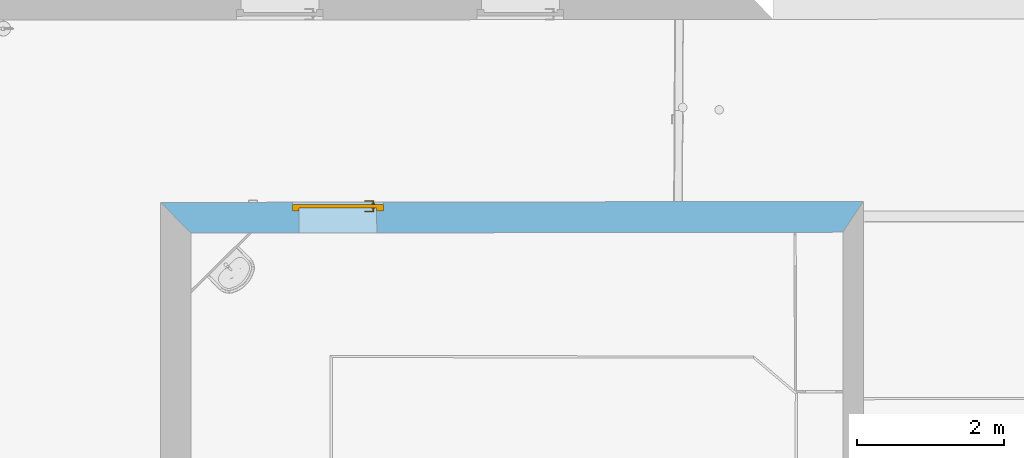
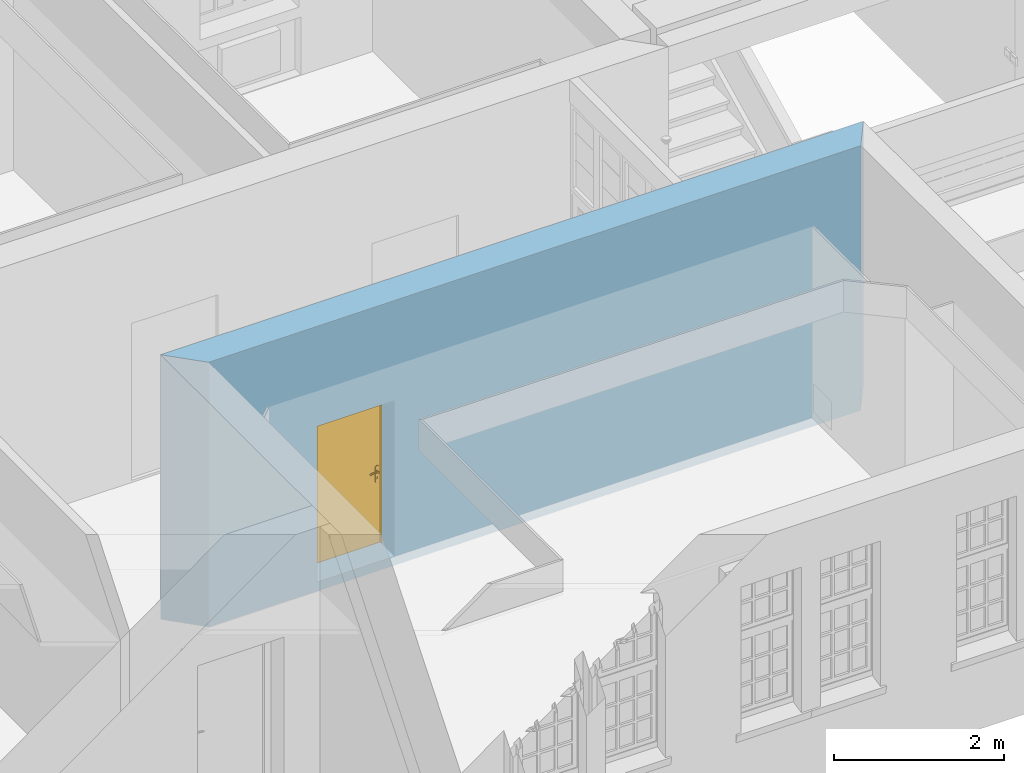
# One storey, part 70 of 158: 1 door, 1 opening, plus 1 element that does not belong to this part.
"""IFC2X3 building model written with IfcOpenShell, lengths in metres."""

from ifc_helpers import new_model, entity, si_unit, converted_unit, derived_unit, money_unit, direction, frame, origin_with_axes, origin_2d_with_axis, place, context, subcontext, project, spatial, polyline, rectangle, outline, extrude, faceted_brep, material, layer, layer_set, layer_usage, type_object, element, fill, save


model = new_model("IFC2X3")

# Units and contexts
model_context = context("Model", 3, precision=1e-05, world=origin_with_axes(), true_north=direction((0.0, 1.0)))
body_context = subcontext(model_context, "Body", "Model", "MODEL_VIEW")
ifc_project = project(units=[si_unit("LENGTHUNIT", "METRE"), si_unit("AREAUNIT", "SQUARE_METRE"), si_unit("VOLUMEUNIT", "CUBIC_METRE"), converted_unit("PLANEANGLEUNIT", "DEGREE", entity("IfcPlaneAngleMeasure", 0.0174532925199), si_unit("PLANEANGLEUNIT", "RADIAN"), dimensions=[0, 0, 0, 0, 0, 0, 0]), money_unit("EUR"), converted_unit("TIMEUNIT", "Year", entity("IfcTimeMeasure", 31556926.0), si_unit("TIMEUNIT", "SECOND"), dimensions=[0, 0, 1, 0, 0, 0, 0]), si_unit("MASSUNIT", "GRAM", prefix="KILO"), si_unit("THERMODYNAMICTEMPERATUREUNIT", "DEGREE_CELSIUS"), si_unit("LUMINOUSINTENSITYUNIT", "LUMEN"), si_unit("ENERGYUNIT", "JOULE", prefix="MEGA"), derived_unit("THERMALCONDUCTANCEUNIT", [(si_unit("POWERUNIT", "WATT"), 1), (si_unit("LENGTHUNIT", "METRE"), -1), (si_unit("THERMODYNAMICTEMPERATUREUNIT", "KELVIN"), -1)]), derived_unit("SPECIFICHEATCAPACITYUNIT", [(si_unit("ENERGYUNIT", "JOULE"), 1), (si_unit("MASSUNIT", "GRAM", prefix="KILO"), -1), (si_unit("THERMODYNAMICTEMPERATUREUNIT", "KELVIN"), -1)]), derived_unit("MASSDENSITYUNIT", [(si_unit("MASSUNIT", "GRAM", prefix="KILO"), 1), (si_unit("VOLUMEUNIT", "CUBIC_METRE"), -1)])], contexts=[model_context])

# Site, building, storey
site_placement = place(None, origin_with_axes())
site = spatial("IfcSite", under=ifc_project, at=site_placement, Name="Gelände", CompositionType="ELEMENT")
building_placement = place(site_placement, origin_with_axes())
building = spatial("IfcBuilding", under=site, at=building_placement, Name="Gebäude", CompositionType="ELEMENT")
storey_placement = place(building_placement, origin_with_axes())
storey = spatial("IfcBuildingStorey", under=building, at=storey_placement, Name="ERDGESCHOSS", CompositionType="ELEMENT", Elevation=0.0)

# Wall, opening, door
ifc_material = material(Name="05_ALLGEMEIN - TRAGENDE BAUTEILE")
ifc_layer = layer(ifc_material, 0.42, ventilated="UNKNOWN")
ifc_layer_set = layer_set([ifc_layer], Name="05_ALLGEMEIN - TRAGENDE BAUTEILE 0.42")
ifc_layer_usage = layer_usage(ifc_layer_set, "AXIS2", "NEGATIVE", 0.42)
wall_type = type_object("IfcWallType", Name="05_ALLGEMEIN - TRAGENDE BAUTEILE 420", PredefinedType="ELEMENTEDWALL")
wall_placement = place(storey_placement, frame((-8.89596887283, 16.7844638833, -0.21), z_axis=(0.0, 0.0, 1.0), x_axis=(-0.999998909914, -0.00147654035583, 0.0)))
wall = element("IfcWallStandardCase", 1, at=wall_placement, inside=storey, type_object=wall_type, material=ifc_layer_usage, Name="Wand-036", ObjectType="ELEMENTEDWALL", context=body_context, shape_type="SweptSolid", body=[
    extrude(outline(polyline([(-0.280000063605, 0.0), (9.29327818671, 0.0), (8.87957934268, 0.42), (0.000283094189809, 0.42), (-0.280000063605, 0.0)])), origin_with_axes(), (0.0, 0.0, 1.0), 3.81),
])
opening_placement = place(wall_placement, frame((6.87879197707, 0.0, 0.129867), z_axis=(0.0, 0.0, 1.0), x_axis=(1.0, 0.0, 0.0)))
opening = element("IfcOpeningElement", 2, at=opening_placement, cuts=wall, Name="Tür-022", context=body_context, shape_type="SweptSolid", body=[
    extrude(rectangle(XDim=1.05907517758, YDim=2.24387033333, at=origin_2d_with_axis()), frame((0.0, 0.12, 1.12193516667), z_axis=(0.0, 1.0, 0.0), x_axis=(1.0, 0.0, 0.0)), (0.0, 0.0, 1.0), 0.72),
    extrude(rectangle(XDim=1.23907517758, YDim=2.33387033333, at=origin_2d_with_axis()), frame((0.0, 0.03, 1.16693516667), z_axis=(0.0, -1.0, 0.0), x_axis=(1.0, 0.0, 0.0)), (0.0, 0.0, -1.0), 0.09),
    extrude(rectangle(XDim=1.23907517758, YDim=2.33387033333, at=origin_2d_with_axis()), frame((0.0, 0.03, 1.16693516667), z_axis=(0.0, -1.0, 0.0), x_axis=(1.0, 0.0, 0.0)), (0.0, 0.0, 1.0), 0.45),
])
door_style = type_object("IfcDoorStyle", Name="Blockrahmentür 1-Fl 25", ConstructionType="NOTDEFINED", OperationType="SINGLE_SWING_LEFT", ParameterTakesPrecedence=False, Sizeable=False)
door_placement = place(opening_placement, frame((0.529537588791, 0.0, 0.0), z_axis=(0.0, 0.0, 1.0), x_axis=(-1.0, 0.0, 0.0)))
door = element("IfcDoor", 3, at=door_placement, inside=storey, type_object=door_style, Name="Tür-022", ObjectType="NOTDEFINED", OverallHeight=2.33387, OverallWidth=1.23908, context=body_context, shape_type="Brep", body=[
    faceted_brep([(-0.09, -0.12, 0.0), (-0.09, -0.12, 2.33387033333), (-0.09, -0.08, 2.33387033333), (-0.09, -0.08, 0.0), (0.0, -0.12, 0.0), (0.0, -0.12, 2.24387033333), (0.417437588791, -0.12, 2.24387033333), (0.529437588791, -0.12, 2.24387033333), (1.05907517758, -0.12, 2.24387033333), (1.05907517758, -0.12, 0.0), (1.14907517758, -0.12, 0.0), (1.14907517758, -0.12, 2.33387033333), (1.14907517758, -0.08, 2.33387033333), (1.14907517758, -0.08, 0.0), (1.05907517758, -0.08, 0.0), (1.05907517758, -0.08, 2.24387033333), (0.529437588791, -0.08, 2.24387033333), (0.417437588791, -0.08, 2.24387033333), (0.0, -0.08, 2.24387033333), (0.0, -0.08, 0.0)], [[[0, 1, 2, 3]], [[0, 4, 5, 6, 7, 8, 9, 10, 11, 1]], [[1, 11, 12, 2]], [[3, 2, 12, 13, 14, 15, 16, 17, 18, 19]], [[4, 0, 3, 19]], [[5, 4, 19, 18]], [[6, 5, 18, 17]], [[7, 6, 17, 16]], [[8, 7, 16, 15]], [[9, 8, 15, 14]], [[10, 9, 14, 13]], [[11, 10, 13, 12]]]),
    faceted_brep([(-0.09, -0.08, 0.0), (-0.09, -0.08, 2.33387033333), (-0.09, -0.03, 2.33387033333), (-0.09, -0.03, 0.0), (-0.012, -0.08, 0.0), (-0.012, -0.08, 2.25587033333), (0.429437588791, -0.08, 2.25587033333), (0.517437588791, -0.08, 2.25587033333), (1.07107517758, -0.08, 2.25587033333), (1.07107517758, -0.08, 0.0), (1.14907517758, -0.08, 0.0), (1.14907517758, -0.08, 2.33387033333), (1.14907517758, -0.03, 2.33387033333), (1.14907517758, -0.03, 0.0), (1.07107517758, -0.03, 0.0), (1.07107517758, -0.03, 2.25587033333), (0.517437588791, -0.03, 2.25587033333), (0.429437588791, -0.03, 2.25587033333), (-0.012, -0.03, 2.25587033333), (-0.012, -0.03, 0.0)], [[[0, 1, 2, 3]], [[0, 4, 5, 6, 7, 8, 9, 10, 11, 1]], [[1, 11, 12, 2]], [[3, 2, 12, 13, 14, 15, 16, 17, 18, 19]], [[4, 0, 3, 19]], [[5, 4, 19, 18]], [[6, 5, 18, 17]], [[7, 6, 17, 16]], [[8, 7, 16, 15]], [[9, 8, 15, 14]], [[10, 9, 14, 13]], [[11, 10, 13, 12]]]),
    faceted_brep([(-0.012, -0.032, 0.0), (-0.012, -0.032, 2.25587033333), (1.07107517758, -0.032, 2.25587033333), (1.07107517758, -0.032, 0.0), (-0.012, -0.08, 0.0), (-0.012, -0.08, 2.25587033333), (1.07107517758, -0.08, 2.25587033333), (1.07107517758, -0.08, 0.0)], [[[0, 1, 2, 3]], [[0, 4, 5, 1]], [[1, 5, 6, 2]], [[2, 6, 7, 3]], [[3, 7, 4, 0]], [[7, 6, 5, 4]]]),
    faceted_brep([(1.0157774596, -0.12, 1.05647213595), (1.0157774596, -0.1, 1.05647213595), (1.01107517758, -0.1, 1.058), (1.01107517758, -0.12, 1.058), (1.01868362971, -0.12, 1.05247213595), (1.01868362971, -0.1, 1.05247213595), (1.0169530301, -0.098, 1.05809016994), (1.01107517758, -0.098, 1.06), (1.00637289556, -0.1, 1.05647213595), (1.00637289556, -0.12, 1.05647213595), (1.00346672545, -0.12, 1.05247213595), (1.00346672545, -0.12, 1.04752786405), (1.00637289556, -0.12, 1.04352786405), (1.01107517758, -0.12, 1.042), (1.0157774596, -0.12, 1.04352786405), (1.01868362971, -0.12, 1.04752786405), (1.01868362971, -0.1, 1.04752786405), (1.02058574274, -0.098, 1.05309016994), (1.0169530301, -0.09, 1.05809016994), (1.01107517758, -0.09, 1.06), (1.00519732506, -0.098, 1.05809016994), (1.00346672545, -0.1, 1.05247213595), (1.00346672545, -0.1, 1.04752786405), (1.00637289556, -0.1, 1.04352786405), (1.01107517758, -0.1, 1.042), (1.0157774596, -0.1, 1.04352786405), (1.02058574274, -0.098, 1.04690983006), (1.02058574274, -0.09, 1.05309016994), (1.02058574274, -0.09, 1.04690983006), (1.0169530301, -0.09, 1.04190983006), (1.01107517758, -0.09, 1.04), (1.00519732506, -0.09, 1.04190983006), (1.00156461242, -0.09, 1.04690983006), (1.00156461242, -0.09, 1.05309016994), (1.00519732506, -0.09, 1.05809016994), (1.00156461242, -0.098, 1.05309016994), (1.00156461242, -0.098, 1.04690983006), (1.00519732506, -0.098, 1.04190983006), (1.01107517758, -0.098, 1.04), (1.0169530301, -0.098, 1.04190983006)], [[[0, 1, 2, 3]], [[4, 5, 1, 0]], [[1, 6, 7, 2]], [[3, 2, 8, 9]], [[3, 9, 10, 11, 12, 13, 14, 15, 4, 0]], [[15, 16, 5, 4]], [[5, 17, 6, 1]], [[6, 18, 19, 7]], [[2, 7, 20, 8]], [[9, 8, 21, 10]], [[10, 21, 22, 11]], [[11, 22, 23, 12]], [[12, 23, 24, 13]], [[13, 24, 25, 14]], [[14, 25, 16, 15]], [[16, 26, 17, 5]], [[17, 27, 18, 6]], [[19, 18, 27, 28, 29, 30, 31, 32, 33, 34]], [[7, 19, 34, 20]], [[8, 20, 35, 21]], [[21, 35, 36, 22]], [[22, 36, 37, 23]], [[23, 37, 38, 24]], [[24, 38, 39, 25]], [[25, 39, 26, 16]], [[26, 28, 27, 17]], [[39, 29, 28, 26]], [[38, 30, 29, 39]], [[37, 31, 30, 38]], [[36, 32, 31, 37]], [[35, 33, 32, 36]], [[20, 34, 33, 35]]]),
    faceted_brep([(0.998886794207, -0.09, 1.11759695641), (0.994275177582, -0.09, 1.11), (0.988575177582, -0.09, 1.11), (0.988575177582, -0.09, 0.89), (0.994275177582, -0.09, 0.89), (0.998886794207, -0.09, 0.882403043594), (1.00663162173, -0.09, 0.878044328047), (1.01551873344, -0.09, 0.878044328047), (1.02326356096, -0.09, 0.882403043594), (1.02787517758, -0.09, 0.89), (1.03357517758, -0.09, 0.89), (1.03357517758, -0.09, 1.11), (1.02787517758, -0.09, 1.11), (1.02326356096, -0.09, 1.11759695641), (1.01551873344, -0.09, 1.12195567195), (1.00663162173, -0.09, 1.12195567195), (1.01107517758, -0.09, 0.967425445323), (1.0164503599, -0.09, 0.965143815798), (1.01854300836, -0.09, 0.959692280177), (1.01607517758, -0.09, 0.9544), (1.01607517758, -0.09, 0.9375), (1.01461071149, -0.09, 0.933964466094), (1.01107517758, -0.09, 0.9325), (1.00753964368, -0.09, 0.933964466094), (1.00607517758, -0.09, 0.9375), (1.00607517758, -0.09, 0.9544), (1.00360734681, -0.09, 0.959692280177), (1.00569999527, -0.09, 0.965143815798), (0.998886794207, -0.08, 1.11759695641), (0.994275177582, -0.08, 1.11), (0.988575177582, -0.08, 1.11), (0.988575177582, -0.08, 0.89), (0.994275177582, -0.08, 0.89), (0.998886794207, -0.08, 0.882403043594), (1.00663162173, -0.08, 0.878044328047), (1.01551873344, -0.08, 0.878044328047), (1.02326356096, -0.08, 0.882403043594), (1.02787517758, -0.08, 0.89), (1.03357517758, -0.08, 0.89), (1.03357517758, -0.08, 1.11), (1.02787517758, -0.08, 1.11), (1.02326356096, -0.08, 1.11759695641), (1.01551873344, -0.08, 1.12195567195), (1.00663162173, -0.08, 1.12195567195), (1.01107517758, -0.08, 0.967425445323), (1.0164503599, -0.08, 0.965143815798), (1.01854300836, -0.08, 0.959692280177), (1.01607517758, -0.08, 0.9544), (1.01607517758, -0.08, 0.9375), (1.01461071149, -0.08, 0.933964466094), (1.01107517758, -0.08, 0.9325), (1.00753964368, -0.08, 0.933964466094), (1.00607517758, -0.08, 0.9375), (1.00607517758, -0.08, 0.9544), (1.00360734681, -0.08, 0.959692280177), (1.00569999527, -0.08, 0.965143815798)], [[[0, 1, 2, 3, 4, 5, 6, 7, 8, 9, 10, 11, 12, 13, 14, 15], [16, 17, 18, 19, 20, 21, 22, 23, 24, 25, 26, 27]], [[0, 28, 29, 1]], [[1, 29, 30, 2]], [[2, 30, 31, 3]], [[3, 31, 32, 4]], [[4, 32, 33, 5]], [[5, 33, 34, 6]], [[6, 34, 35, 7]], [[7, 35, 36, 8]], [[8, 36, 37, 9]], [[9, 37, 38, 10]], [[10, 38, 39, 11]], [[11, 39, 40, 12]], [[12, 40, 41, 13]], [[13, 41, 42, 14]], [[14, 42, 43, 15]], [[15, 43, 28, 0]], [[16, 44, 45, 17]], [[17, 45, 46, 18]], [[18, 46, 47, 19]], [[47, 48, 20, 19]], [[21, 20, 48, 49]], [[22, 21, 49, 50]], [[23, 22, 50, 51]], [[24, 23, 51, 52]], [[25, 24, 52, 53]], [[25, 53, 54, 26]], [[26, 54, 55, 27]], [[27, 55, 44, 16]], [[32, 31, 30, 29, 28, 43, 42, 41, 40, 39, 38, 37, 36, 35, 34, 33], [46, 45, 44, 55, 54, 53, 52, 51, 50, 49, 48, 47]]]),
    faceted_brep([(0.896822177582, -0.12, 1.057158), (0.896820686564, -0.12, 1.05719388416), (0.896820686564, -0.135, 1.05719388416), (0.896822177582, -0.135, 1.057158), (0.923849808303, -0.12, 1.06432652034), (0.951677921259, -0.12, 1.06706086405), (0.979583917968, -0.12, 1.06529002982), (1.00684317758, -0.12, 1.05906), (1.0132457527, -0.12, 1.05976125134), (1.01874781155, -0.12, 1.05641280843), (1.02106669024, -0.12, 1.05040385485), (1.01924034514, -0.12, 1.04422735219), (1.01402648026, -0.12, 1.04044577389), (1.00758819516, -0.12, 1.04062800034), (1.00259657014, -0.12, 1.04469843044), (1.00261717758, -0.12, 1.044666), (0.977328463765, -0.12, 1.05019878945), (0.951485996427, -0.12, 1.05171460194), (0.925723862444, -0.12, 1.04917624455), (0.900674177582, -0.12, 1.042646), (0.895130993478, -0.12, 1.04356849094), (0.891769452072, -0.12, 1.04807159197), (0.892461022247, -0.12, 1.05364829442), (0.892461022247, -0.135, 1.05364829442), (0.891769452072, -0.135, 1.04807159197), (0.895130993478, -0.135, 1.04356849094), (0.900674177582, -0.135, 1.042646), (0.925723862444, -0.135, 1.04917624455), (0.951485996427, -0.135, 1.05171460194), (0.977328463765, -0.135, 1.05019878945), (1.00261717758, -0.135, 1.044666), (1.00259657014, -0.135, 1.04469843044), (1.00758819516, -0.135, 1.04062800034), (1.01402648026, -0.135, 1.04044577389), (1.01924034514, -0.135, 1.04422735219), (1.02106669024, -0.135, 1.05040385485), (1.01874781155, -0.135, 1.05641280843), (1.0132457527, -0.135, 1.05976125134), (1.00684317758, -0.135, 1.05906), (0.979583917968, -0.135, 1.06529002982), (0.951677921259, -0.135, 1.06706086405), (0.923849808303, -0.135, 1.06432652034)], [[[0, 1, 2, 3]], [[0, 4, 5, 6, 7, 8, 9, 10, 11, 12, 13, 14, 15, 16, 17, 18, 19, 20, 21, 22, 1]], [[1, 22, 23, 2]], [[3, 2, 23, 24, 25, 26, 27, 28, 29, 30, 31, 32, 33, 34, 35, 36, 37, 38, 39, 40, 41]], [[4, 0, 3, 41]], [[5, 4, 41, 40]], [[6, 5, 40, 39]], [[7, 6, 39, 38]], [[8, 7, 38, 37]], [[9, 8, 37, 36]], [[10, 9, 36, 35]], [[11, 10, 35, 34]], [[12, 11, 34, 33]], [[13, 12, 33, 32]], [[14, 13, 32, 31]], [[15, 14, 31, 30]], [[16, 15, 30, 29]], [[17, 16, 29, 28]], [[18, 17, 28, 27]], [[19, 18, 27, 26]], [[20, 19, 26, 25]], [[21, 20, 25, 24]], [[22, 21, 24, 23]]]),
    faceted_brep([(1.0157774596, 0.008, 1.05647213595), (1.01107517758, 0.008, 1.058), (1.01107517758, -0.012, 1.058), (1.0157774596, -0.012, 1.05647213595), (1.01868362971, 0.008, 1.05247213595), (1.01868362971, 0.008, 1.04752786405), (1.0157774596, 0.008, 1.04352786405), (1.01107517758, 0.008, 1.042), (1.00637289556, 0.008, 1.04352786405), (1.00346672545, 0.008, 1.04752786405), (1.00346672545, 0.008, 1.05247213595), (1.00637289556, 0.008, 1.05647213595), (1.00637289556, -0.012, 1.05647213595), (1.01107517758, -0.014, 1.06), (1.0169530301, -0.014, 1.05809016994), (1.01868362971, -0.012, 1.05247213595), (1.01868362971, -0.012, 1.04752786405), (1.0157774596, -0.012, 1.04352786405), (1.01107517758, -0.012, 1.042), (1.00637289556, -0.012, 1.04352786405), (1.00346672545, -0.012, 1.04752786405), (1.00346672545, -0.012, 1.05247213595), (1.00519732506, -0.014, 1.05809016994), (1.01107517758, -0.022, 1.06), (1.0169530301, -0.022, 1.05809016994), (1.02058574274, -0.014, 1.05309016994), (1.02058574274, -0.014, 1.04690983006), (1.0169530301, -0.014, 1.04190983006), (1.01107517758, -0.014, 1.04), (1.00519732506, -0.014, 1.04190983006), (1.00156461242, -0.014, 1.04690983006), (1.00156461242, -0.014, 1.05309016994), (1.00519732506, -0.022, 1.05809016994), (1.00156461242, -0.022, 1.05309016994), (1.00156461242, -0.022, 1.04690983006), (1.00519732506, -0.022, 1.04190983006), (1.01107517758, -0.022, 1.04), (1.0169530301, -0.022, 1.04190983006), (1.02058574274, -0.022, 1.04690983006), (1.02058574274, -0.022, 1.05309016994)], [[[0, 1, 2, 3]], [[1, 0, 4, 5, 6, 7, 8, 9, 10, 11]], [[1, 11, 12, 2]], [[3, 2, 13, 14]], [[4, 0, 3, 15]], [[5, 4, 15, 16]], [[6, 5, 16, 17]], [[7, 6, 17, 18]], [[8, 7, 18, 19]], [[9, 8, 19, 20]], [[10, 9, 20, 21]], [[11, 10, 21, 12]], [[2, 12, 22, 13]], [[14, 13, 23, 24]], [[15, 3, 14, 25]], [[16, 15, 25, 26]], [[17, 16, 26, 27]], [[18, 17, 27, 28]], [[19, 18, 28, 29]], [[20, 19, 29, 30]], [[21, 20, 30, 31]], [[12, 21, 31, 22]], [[13, 22, 32, 23]], [[23, 32, 33, 34, 35, 36, 37, 38, 39, 24]], [[25, 14, 24, 39]], [[26, 25, 39, 38]], [[27, 26, 38, 37]], [[28, 27, 37, 36]], [[29, 28, 36, 35]], [[30, 29, 35, 34]], [[31, 30, 34, 33]], [[22, 31, 33, 32]]]),
    faceted_brep([(0.998886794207, -0.032, 1.11759695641), (0.994275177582, -0.032, 1.11), (0.988575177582, -0.032, 1.11), (0.988575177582, -0.032, 0.89), (0.994275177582, -0.032, 0.89), (0.998886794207, -0.032, 0.882403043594), (1.00663162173, -0.032, 0.878044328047), (1.01551873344, -0.032, 0.878044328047), (1.02326356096, -0.032, 0.882403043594), (1.02787517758, -0.032, 0.89), (1.03357517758, -0.032, 0.89), (1.03357517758, -0.032, 1.11), (1.02787517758, -0.032, 1.11), (1.02326356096, -0.032, 1.11759695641), (1.01551873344, -0.032, 1.12195567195), (1.00663162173, -0.032, 1.12195567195), (1.01107517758, -0.032, 0.967425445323), (1.0164503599, -0.032, 0.965143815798), (1.01854300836, -0.032, 0.959692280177), (1.01607517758, -0.032, 0.9544), (1.01607517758, -0.032, 0.9375), (1.01461071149, -0.032, 0.933964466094), (1.01107517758, -0.032, 0.9325), (1.00753964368, -0.032, 0.933964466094), (1.00607517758, -0.032, 0.9375), (1.00607517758, -0.032, 0.9544), (1.00360734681, -0.032, 0.959692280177), (1.00569999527, -0.032, 0.965143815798), (0.998886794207, -0.022, 1.11759695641), (0.994275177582, -0.022, 1.11), (0.988575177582, -0.022, 1.11), (0.988575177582, -0.022, 0.89), (0.994275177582, -0.022, 0.89), (0.998886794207, -0.022, 0.882403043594), (1.00663162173, -0.022, 0.878044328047), (1.01551873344, -0.022, 0.878044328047), (1.02326356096, -0.022, 0.882403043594), (1.02787517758, -0.022, 0.89), (1.03357517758, -0.022, 0.89), (1.03357517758, -0.022, 1.11), (1.02787517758, -0.022, 1.11), (1.02326356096, -0.022, 1.11759695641), (1.01551873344, -0.022, 1.12195567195), (1.00663162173, -0.022, 1.12195567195), (1.01107517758, -0.022, 0.967425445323), (1.0164503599, -0.022, 0.965143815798), (1.01854300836, -0.022, 0.959692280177), (1.01607517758, -0.022, 0.9544), (1.01607517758, -0.022, 0.9375), (1.01461071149, -0.022, 0.933964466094), (1.01107517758, -0.022, 0.9325), (1.00753964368, -0.022, 0.933964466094), (1.00607517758, -0.022, 0.9375), (1.00607517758, -0.022, 0.9544), (1.00360734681, -0.022, 0.959692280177), (1.00569999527, -0.022, 0.965143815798)], [[[0, 1, 2, 3, 4, 5, 6, 7, 8, 9, 10, 11, 12, 13, 14, 15], [16, 17, 18, 19, 20, 21, 22, 23, 24, 25, 26, 27]], [[28, 29, 1, 0]], [[29, 30, 2, 1]], [[30, 31, 3, 2]], [[31, 32, 4, 3]], [[32, 33, 5, 4]], [[33, 34, 6, 5]], [[34, 35, 7, 6]], [[35, 36, 8, 7]], [[36, 37, 9, 8]], [[37, 38, 10, 9]], [[38, 39, 11, 10]], [[39, 40, 12, 11]], [[40, 41, 13, 12]], [[41, 42, 14, 13]], [[42, 43, 15, 14]], [[43, 28, 0, 15]], [[16, 44, 45, 17]], [[17, 45, 46, 18]], [[18, 46, 47, 19]], [[47, 48, 20, 19]], [[21, 20, 48, 49]], [[22, 21, 49, 50]], [[23, 22, 50, 51]], [[24, 23, 51, 52]], [[25, 24, 52, 53]], [[25, 53, 54, 26]], [[26, 54, 55, 27]], [[27, 55, 44, 16]], [[32, 31, 30, 29, 28, 43, 42, 41, 40, 39, 38, 37, 36, 35, 34, 33], [46, 45, 44, 55, 54, 53, 52, 51, 50, 49, 48, 47]]]),
    faceted_brep([(0.896822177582, 0.008, 1.057158), (0.896822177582, 0.023, 1.057158), (0.896820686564, 0.023, 1.05719388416), (0.896820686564, 0.008, 1.05719388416), (0.923849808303, 0.008, 1.06432652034), (0.923849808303, 0.023, 1.06432652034), (0.951677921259, 0.023, 1.06706086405), (0.979583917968, 0.023, 1.06529002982), (1.00684317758, 0.023, 1.05906), (1.0132457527, 0.023, 1.05976125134), (1.01874781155, 0.023, 1.05641280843), (1.02106669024, 0.023, 1.05040385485), (1.01924034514, 0.023, 1.04422735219), (1.01402648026, 0.023, 1.04044577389), (1.00758819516, 0.023, 1.04062800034), (1.00259657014, 0.023, 1.04469843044), (1.00261717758, 0.023, 1.044666), (0.977328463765, 0.023, 1.05019878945), (0.951485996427, 0.023, 1.05171460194), (0.925723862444, 0.023, 1.04917624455), (0.900674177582, 0.023, 1.042646), (0.895130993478, 0.023, 1.04356849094), (0.891769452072, 0.023, 1.04807159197), (0.892461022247, 0.023, 1.05364829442), (0.892461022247, 0.008, 1.05364829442), (0.891769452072, 0.008, 1.04807159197), (0.895130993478, 0.008, 1.04356849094), (0.900674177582, 0.008, 1.042646), (0.925723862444, 0.008, 1.04917624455), (0.951485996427, 0.008, 1.05171460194), (0.977328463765, 0.008, 1.05019878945), (1.00261717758, 0.008, 1.044666), (1.00259657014, 0.008, 1.04469843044), (1.00758819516, 0.008, 1.04062800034), (1.01402648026, 0.008, 1.04044577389), (1.01924034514, 0.008, 1.04422735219), (1.02106669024, 0.008, 1.05040385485), (1.01874781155, 0.008, 1.05641280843), (1.0132457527, 0.008, 1.05976125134), (1.00684317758, 0.008, 1.05906), (0.979583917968, 0.008, 1.06529002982), (0.951677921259, 0.008, 1.06706086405)], [[[0, 1, 2, 3]], [[4, 5, 1, 0]], [[1, 5, 6, 7, 8, 9, 10, 11, 12, 13, 14, 15, 16, 17, 18, 19, 20, 21, 22, 23, 2]], [[3, 2, 23, 24]], [[0, 3, 24, 25, 26, 27, 28, 29, 30, 31, 32, 33, 34, 35, 36, 37, 38, 39, 40, 41, 4]], [[41, 6, 5, 4]], [[40, 7, 6, 41]], [[39, 8, 7, 40]], [[38, 9, 8, 39]], [[37, 10, 9, 38]], [[36, 11, 10, 37]], [[35, 12, 11, 36]], [[34, 13, 12, 35]], [[33, 14, 13, 34]], [[32, 15, 14, 33]], [[31, 16, 15, 32]], [[30, 17, 16, 31]], [[29, 18, 17, 30]], [[28, 19, 18, 29]], [[27, 20, 19, 28]], [[26, 21, 20, 27]], [[25, 22, 21, 26]], [[24, 23, 22, 25]]]),
])
fill(opening, door)

save(model, "model.ifc")
